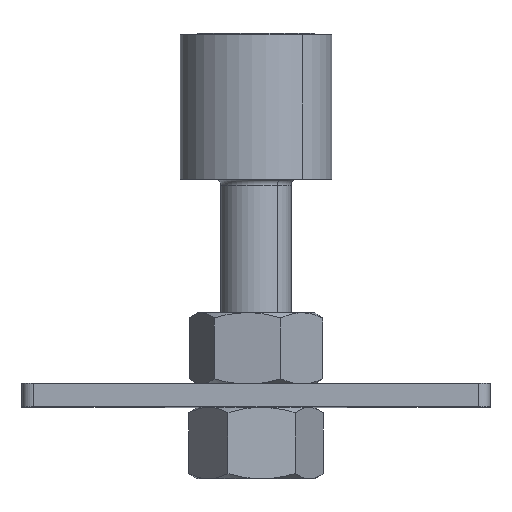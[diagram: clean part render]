
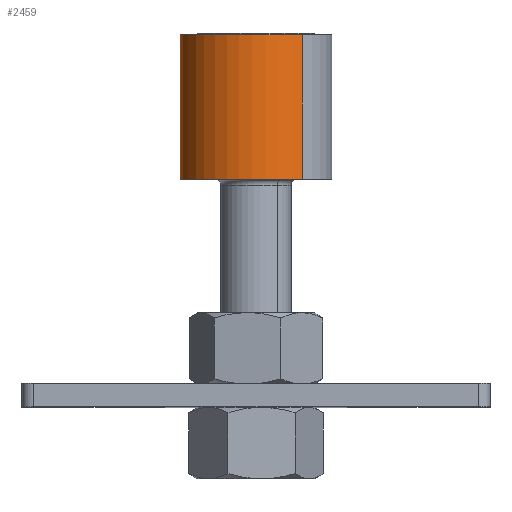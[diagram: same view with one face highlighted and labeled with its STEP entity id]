
A CAD part, top view. The second image highlights one B-rep face of the part: STEP entity #2459.
In plain terms, the highlighted cylindrical face has radius 6.5 mm (diameter 13 mm), a partial arc.
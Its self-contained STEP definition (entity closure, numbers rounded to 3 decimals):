
#38 = CARTESIAN_POINT ( 'NONE',  ( 3.941, 17.5, -36.131 ) ) ;
#220 = AXIS2_PLACEMENT_3D ( 'NONE', #1229, #2270, #2068 ) ;
#316 = AXIS2_PLACEMENT_3D ( 'NONE', #2449, #517, #1380 ) ;
#420 = CARTESIAN_POINT ( 'NONE',  ( 3.941, 29.85, -36.131 ) ) ;
#476 = VERTEX_POINT ( 'NONE', #2577 ) ;
#517 = DIRECTION ( 'NONE',  ( 0., 1., 0. ) ) ;
#547 = DIRECTION ( 'NONE',  ( 0., 1., 0. ) ) ;
#563 = CARTESIAN_POINT ( 'NONE',  ( -3.941, 30., -46.469 ) ) ;
#767 = CIRCLE ( 'NONE', #316, 6.5 ) ;
#800 = CARTESIAN_POINT ( 'NONE',  ( -3.941, 17.5, -46.469 ) ) ;
#809 = CIRCLE ( 'NONE', #220, 6.5 ) ;
#821 = ORIENTED_EDGE ( 'NONE', *, *, #1210, .F. ) ;
#845 = VERTEX_POINT ( 'NONE', #420 ) ;
#850 = VECTOR ( 'NONE', #2690, 1000. ) ;
#979 = EDGE_LOOP ( 'NONE', ( #2670, #1104, #2778, #821 ) ) ;
#1001 = DIRECTION ( 'NONE',  ( 0.606, 0., 0.795 ) ) ;
#1013 = FACE_OUTER_BOUND ( 'NONE', #979, .T. ) ;
#1056 = EDGE_CURVE ( 'NONE', #1222, #2667, #767, .T. ) ;
#1104 = ORIENTED_EDGE ( 'NONE', *, *, #1056, .T. ) ;
#1114 = VECTOR ( 'NONE', #2618, 1000. ) ;
#1210 = EDGE_CURVE ( 'NONE', #476, #845, #809, .T. ) ;
#1222 = VERTEX_POINT ( 'NONE', #800 ) ;
#1227 = EDGE_CURVE ( 'NONE', #1222, #476, #1449, .T. ) ;
#1229 = CARTESIAN_POINT ( 'NONE',  ( 0., 29.85, -41.3 ) ) ;
#1380 = DIRECTION ( 'NONE',  ( 0.606, 0., 0.795 ) ) ;
#1409 = CYLINDRICAL_SURFACE ( 'NONE', #2393, 6.5 ) ;
#1432 = CARTESIAN_POINT ( 'NONE',  ( 0., 30., -41.3 ) ) ;
#1449 = LINE ( 'NONE', #563, #850 ) ;
#1985 = EDGE_CURVE ( 'NONE', #2667, #845, #2192, .T. ) ;
#2068 = DIRECTION ( 'NONE',  ( 0.606, 0., 0.795 ) ) ;
#2192 = LINE ( 'NONE', #2257, #1114 ) ;
#2257 = CARTESIAN_POINT ( 'NONE',  ( 3.941, 30., -36.131 ) ) ;
#2270 = DIRECTION ( 'NONE',  ( 0., 1., 0. ) ) ;
#2393 = AXIS2_PLACEMENT_3D ( 'NONE', #1432, #547, #1001 ) ;
#2449 = CARTESIAN_POINT ( 'NONE',  ( 0., 17.5, -41.3 ) ) ;
#2459 = ADVANCED_FACE ( 'NONE', ( #1013 ), #1409, .T. ) ;
#2577 = CARTESIAN_POINT ( 'NONE',  ( -3.941, 29.85, -46.469 ) ) ;
#2618 = DIRECTION ( 'NONE',  ( 0., 1., 0. ) ) ;
#2667 = VERTEX_POINT ( 'NONE', #38 ) ;
#2670 = ORIENTED_EDGE ( 'NONE', *, *, #1227, .F. ) ;
#2690 = DIRECTION ( 'NONE',  ( 0., 1., 0. ) ) ;
#2778 = ORIENTED_EDGE ( 'NONE', *, *, #1985, .T. ) ;
